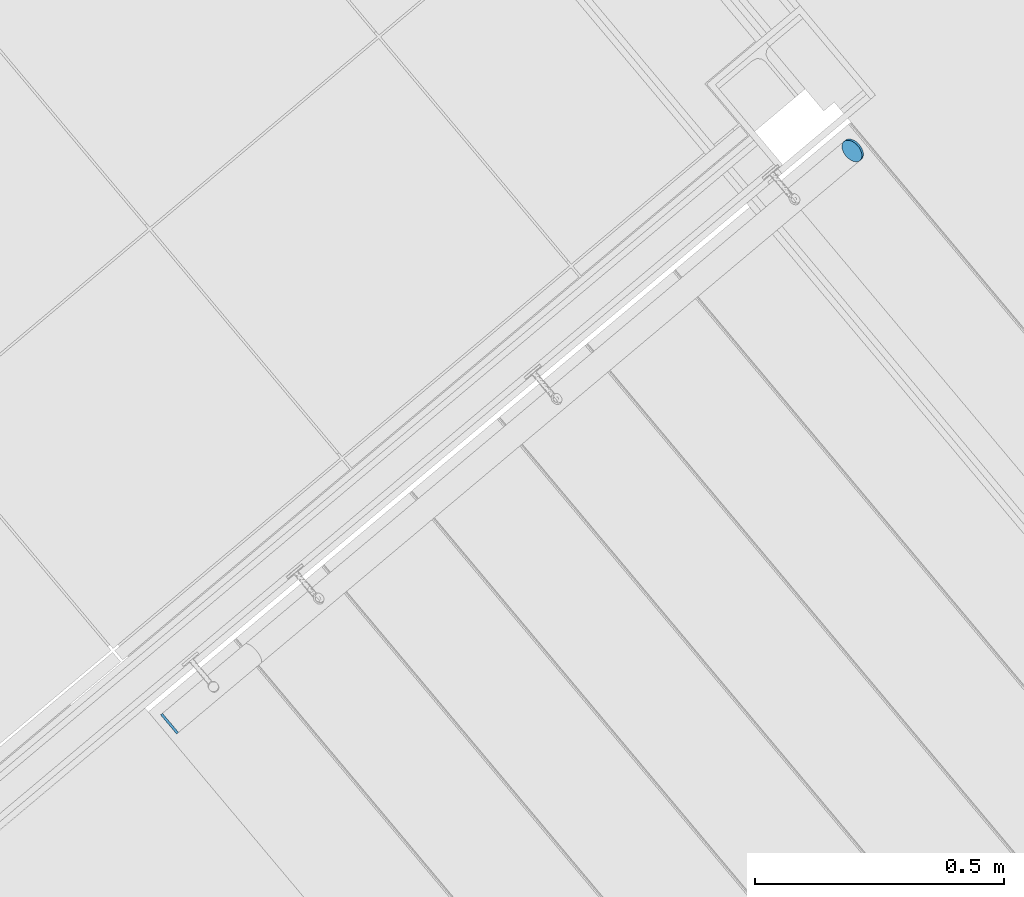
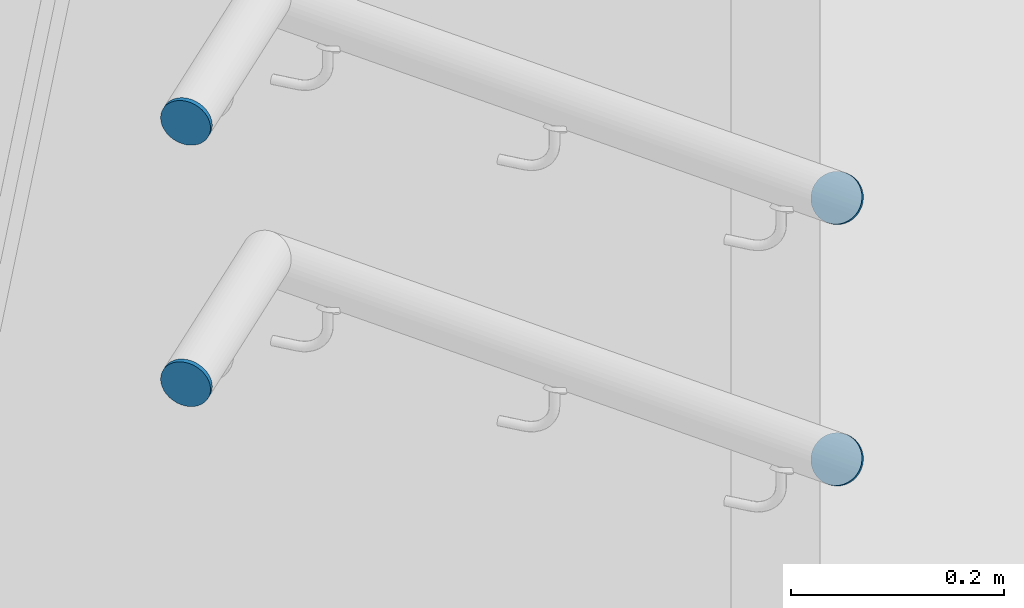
# One storey, part 3 of 338: 4 members, 2 elements without a shape of their own.
"""IFC2X3 building model written with IfcOpenShell, lengths in millimetres."""

from ifc_helpers import new_model, entity, si_unit, converted_unit, derived_unit, money_unit, direction, frame, origin_with_axes, place, context, subcontext, project, spatial, faceted_brep, source, transform, mapped, material, type_object, type_shapes, element, aggregate, save


model = new_model("IFC2X3")

# Units and contexts
model_context = context("Model", 3, precision=0.01, world=origin_with_axes(), true_north=direction((0.0, 1.0)))
plan_context = context("Plan", 3, precision=0.01, world=origin_with_axes(), true_north=direction((0.0, 1.0)))
body_context = subcontext(model_context, "Body", "Model", "MODEL_VIEW")
ifc_project = project(units=[si_unit("LENGTHUNIT", "METRE", prefix="MILLI"), si_unit("AREAUNIT", "SQUARE_METRE"), si_unit("VOLUMEUNIT", "CUBIC_METRE"), converted_unit("PLANEANGLEUNIT", "DEGREE", entity("IfcPlaneAngleMeasure", 0.0174532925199), si_unit("PLANEANGLEUNIT", "RADIAN"), dimensions=[0, 0, 0, 0, 0, 0, 0]), money_unit("EUR"), converted_unit("TIMEUNIT", "Year", entity("IfcTimeMeasure", 31556926.0), si_unit("TIMEUNIT", "SECOND"), dimensions=[0, 0, 1, 0, 0, 0, 0]), si_unit("MASSUNIT", "GRAM", prefix="KILO"), si_unit("THERMODYNAMICTEMPERATUREUNIT", "DEGREE_CELSIUS"), si_unit("LUMINOUSINTENSITYUNIT", "LUMEN"), si_unit("ENERGYUNIT", "JOULE", prefix="MEGA"), derived_unit("THERMALCONDUCTANCEUNIT", [(si_unit("POWERUNIT", "WATT"), 1), (si_unit("LENGTHUNIT", "METRE"), -1), (si_unit("THERMODYNAMICTEMPERATUREUNIT", "KELVIN"), -1)]), derived_unit("SPECIFICHEATCAPACITYUNIT", [(si_unit("ENERGYUNIT", "JOULE"), 1), (si_unit("MASSUNIT", "GRAM", prefix="KILO"), -1), (si_unit("THERMODYNAMICTEMPERATUREUNIT", "KELVIN"), -1)]), derived_unit("MASSDENSITYUNIT", [(si_unit("MASSUNIT", "GRAM", prefix="KILO"), 1), (si_unit("VOLUMEUNIT", "CUBIC_METRE"), -1)])], contexts=[model_context, plan_context])

# Site, building, storey
site_placement = place(None, origin_with_axes())
site = spatial("IfcSite", under=ifc_project, at=site_placement, Name="Fortuinstraat Woensdrecht", CompositionType="ELEMENT")
building_placement = place(site_placement, origin_with_axes())
building = spatial("IfcBuilding", under=site, at=building_placement, Name="IKC Fortuna", CompositionType="ELEMENT")
storey_placement = place(building_placement, origin_with_axes())
storey = spatial("IfcBuildingStorey", under=building, at=storey_placement, Name="00 begane grond", CompositionType="ELEMENT", Elevation=0.0)

# Railing, member
railing_type = type_object("IfcRailingType", Name="Railing Type", PredefinedType="NOTDEFINED")
railing_1_placement = place(storey_placement, frame((18628.4030383, 5997.03974934, 25.0), z_axis=(0.0, 0.0, 1.0), x_axis=(0.173648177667, 0.984807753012, 0.0)))
railing_1 = element("IfcRailing", 1, at=railing_1_placement, inside=storey, type_object=railing_type, Name="_Reling_Reling-x", PredefinedType="NOTDEFINED")
ifc_material = material(Name="Hout AFW")
member_type = type_object("IfcMemberType", Name="IfcMember", PredefinedType="USERDEFINED")
shared_shape_1 = source(origin_with_axes(), body_context, "Body", "Brep", [
    faceted_brep([(-75.0, 15.6832384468, 880.531152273), (-75.3798061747, 12.9598726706, 883.911882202), (-75.3798061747, 9.06610312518, 880.775234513), (-75.0, 11.7894689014, 877.394504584), (-75.3798061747, 18.406604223, 877.150422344), (-76.5076844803, 21.0472219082, 873.872414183), (-78.3493649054, 23.5248576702, 870.796728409), (-80.848888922, 25.7642298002, 868.016818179), (-83.9303097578, 27.6972961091, 865.617149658), (-87.5, 29.2653213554, 863.670635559), (-91.4494964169, 30.4206618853, 862.236419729), (-95.6587955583, 31.1282132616, 861.358080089), (-100.0, 31.3664768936, 861.062304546), (-104.341204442, 31.1282132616, 861.358080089), (-108.550503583, 30.4206618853, 862.236419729), (-112.5, 29.2653213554, 863.670635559), (-116.069690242, 27.6972961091, 865.617149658), (-119.151111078, 25.7642298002, 868.016818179), (-121.650635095, 23.5248576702, 870.796728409), (-123.49231552, 21.0472219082, 873.872414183), (-124.620193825, 18.406604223, 877.150422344), (-125.0, 15.6832384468, 880.531152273), (-124.620193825, 12.9598726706, 883.911882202), (-123.49231552, 10.3192549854, 887.189890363), (-121.650635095, 7.84161922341, 890.265576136), (-119.151111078, 5.60224709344, 893.045486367), (-116.069690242, 3.66918078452, 895.445154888), (-112.5, 2.10115553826, 897.391668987), (-108.550503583, 0.945815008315, 898.825884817), (-104.341204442, 0.23826363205, 899.704224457), (-100.0, 0.0, 900.0), (-95.6587955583, 0.238263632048, 899.704224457), (-91.4494964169, 0.945815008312, 898.825884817), (-87.5, 2.10115553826, 897.391668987), (-83.9303097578, 3.66918078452, 895.445154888), (-80.848888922, 5.60224709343, 893.045486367), (-78.3493649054, 7.8416192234, 890.265576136), (-76.5076844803, 10.3192549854, 887.189890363), (-76.5076844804, 6.42548544, 884.053242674), (-78.3493649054, 3.94784967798, 887.128928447), (-80.848888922, 1.70847754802, 889.908838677), (-83.9303097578, -0.224588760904, 892.308507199), (-87.5, -1.79261400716, 894.255021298), (-91.4494964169, -2.94795453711, 895.689237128), (-95.6587955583, -3.65550591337, 896.567576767), (-100.0, -3.89376954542, 896.863352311), (-104.341204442, -3.65550591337, 896.567576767), (-108.550503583, -2.9479545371, 895.689237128), (-112.5, -1.79261400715, 894.255021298), (-116.069690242, -0.224588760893, 892.308507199), (-119.151111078, 1.70847754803, 889.908838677), (-121.650635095, 3.94784967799, 887.128928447), (-123.49231552, 6.42548544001, 884.053242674), (-124.620193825, 9.0661031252, 880.775234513), (-125.0, 11.7894689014, 877.394504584), (-124.620193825, 14.5128346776, 874.013774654), (-123.49231552, 17.1534523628, 870.735766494), (-121.650635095, 19.6310881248, 867.66008072), (-119.151111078, 21.8704602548, 864.88017049), (-116.069690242, 23.8035265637, 862.480501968), (-112.5, 25.3715518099, 860.533987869), (-108.550503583, 26.5268923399, 859.099772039), (-104.341204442, 27.2344437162, 858.2214324), (-100.0, 27.4727073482, 857.925656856), (-95.6587955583, 27.2344437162, 858.2214324), (-91.4494964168, 26.5268923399, 859.099772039), (-87.5, 25.3715518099, 860.533987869), (-83.9303097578, 23.8035265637, 862.480501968), (-80.848888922, 21.8704602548, 864.88017049), (-78.3493649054, 19.6310881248, 867.66008072), (-76.5076844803, 17.1534523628, 870.735766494), (-75.3798061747, 14.5128346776, 874.013774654)], [[[0, 1, 2, 3]], [[0, 4, 5, 6, 7, 8, 9, 10, 11, 12, 13, 14, 15, 16, 17, 18, 19, 20, 21, 22, 23, 24, 25, 26, 27, 28, 29, 30, 31, 32, 33, 34, 35, 36, 37, 1]], [[1, 37, 38, 2]], [[3, 2, 38, 39, 40, 41, 42, 43, 44, 45, 46, 47, 48, 49, 50, 51, 52, 53, 54, 55, 56, 57, 58, 59, 60, 61, 62, 63, 64, 65, 66, 67, 68, 69, 70, 71]], [[4, 0, 3, 71]], [[5, 4, 71, 70]], [[6, 5, 70, 69]], [[7, 6, 69, 68]], [[8, 7, 68, 67]], [[9, 8, 67, 66]], [[10, 9, 66, 65]], [[11, 10, 65, 64]], [[12, 11, 64, 63]], [[13, 12, 63, 62]], [[14, 13, 62, 61]], [[15, 14, 61, 60]], [[16, 15, 60, 59]], [[17, 16, 59, 58]], [[18, 17, 58, 57]], [[19, 18, 57, 56]], [[20, 19, 56, 55]], [[21, 20, 55, 54]], [[22, 21, 54, 53]], [[23, 22, 53, 52]], [[24, 23, 52, 51]], [[25, 24, 51, 50]], [[26, 25, 50, 49]], [[27, 26, 49, 48]], [[28, 27, 48, 47]], [[29, 28, 47, 46]], [[30, 29, 46, 45]], [[31, 30, 45, 44]], [[32, 31, 44, 43]], [[33, 32, 43, 42]], [[34, 33, 42, 41]], [[35, 34, 41, 40]], [[36, 35, 40, 39]], [[37, 36, 39, 38]]]),
])
member_1_placement = place(railing_1_placement, frame((0.0, 0.0, 0.0), z_axis=(0.0, 0.0, 1.0), x_axis=(0.173648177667, -0.984807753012, 0.0)))
member_1 = element("IfcMember", 2, at=member_1_placement, type_object=member_type, material=ifc_material, Name="_Reling - regel_", context=body_context, shape_type="MappedRepresentation", body=[
    mapped(shared_shape_1, transform((-24.6846981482, -95.050849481, 181.25), x_axis=(-0.642787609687, 0.766044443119, 0.0), y_axis=(-0.766044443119, -0.642787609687, 0.0), z_axis=(0.0, 0.0, 1.0))),
])

railing_2_placement = place(storey_placement, frame((18628.4030383, 5997.03974934, -275.0), z_axis=(0.0, 0.0, 1.0), x_axis=(0.173648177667, 0.984807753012, 0.0)))
railing_2 = element("IfcRailing", 3, at=railing_2_placement, inside=storey, type_object=railing_type, Name="_Reling_Reling-x", PredefinedType="NOTDEFINED")
member_2_placement = place(railing_2_placement, frame((0.0, 0.0, 0.0), z_axis=(0.0, 0.0, 1.0), x_axis=(0.173648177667, -0.984807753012, 0.0)))
member_2 = element("IfcMember", 4, at=member_2_placement, type_object=member_type, material=ifc_material, Name="_Reling - regel_", context=body_context, shape_type="MappedRepresentation", body=[
    mapped(shared_shape_1, transform((-24.6846981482, -95.050849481, 181.25), x_axis=(-0.642787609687, 0.766044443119, 0.0), y_axis=(-0.766044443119, -0.642787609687, 0.0), z_axis=(0.0, 0.0, 1.0))),
])

# Member
shared_shape_2 = source(origin_with_axes(), body_context, "Body", "Brep", [
    faceted_brep([(-125.0, 0.0, 875.0), (-124.620193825, 0.0, 879.341204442), (-124.620193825, 4.99999999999, 879.341204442), (-125.0, 4.99999999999, 875.0), (-124.620193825, 0.0, 870.658795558), (-123.49231552, 0.0, 866.449496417), (-121.650635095, 0.0, 862.5), (-119.151111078, 0.0, 858.930309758), (-116.069690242, 0.0, 855.848888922), (-112.5, 0.0, 853.349364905), (-108.550503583, 0.0, 851.50768448), (-104.341204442, 0.0, 850.379806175), (-100.0, 0.0, 850.0), (-95.6587955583, 0.0, 850.379806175), (-91.4494964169, 0.0, 851.50768448), (-87.5, 0.0, 853.349364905), (-83.9303097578, 0.0, 855.848888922), (-80.848888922, 0.0, 858.930309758), (-78.3493649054, 0.0, 862.5), (-76.5076844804, 0.0, 866.449496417), (-75.3798061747, 0.0, 870.658795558), (-75.0, 0.0, 875.0), (-75.3798061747, 0.0, 879.341204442), (-76.5076844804, 0.0, 883.550503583), (-78.3493649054, 0.0, 887.5), (-80.848888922, 0.0, 891.069690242), (-83.9303097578, 0.0, 894.151111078), (-87.5, 0.0, 896.650635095), (-91.4494964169, 0.0, 898.49231552), (-95.6587955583, 0.0, 899.620193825), (-100.0, 0.0, 900.0), (-104.341204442, 0.0, 899.620193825), (-108.550503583, 0.0, 898.49231552), (-112.5, 0.0, 896.650635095), (-116.069690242, 0.0, 894.151111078), (-119.151111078, 0.0, 891.069690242), (-121.650635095, 0.0, 887.5), (-123.49231552, 0.0, 883.550503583), (-123.49231552, 4.99999999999, 883.550503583), (-121.650635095, 4.99999999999, 887.5), (-119.151111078, 5.0, 891.069690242), (-116.069690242, 5.0, 894.151111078), (-112.5, 5.0, 896.650635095), (-108.550503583, 5.0, 898.49231552), (-104.341204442, 5.0, 899.620193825), (-100.0, 5.0, 900.0), (-95.6587955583, 5.0, 899.620193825), (-91.4494964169, 5.0, 898.49231552), (-87.5, 5.0, 896.650635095), (-83.9303097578, 5.0, 894.151111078), (-80.848888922, 5.0, 891.069690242), (-78.3493649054, 5.0, 887.5), (-76.5076844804, 5.0, 883.550503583), (-75.3798061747, 5.0, 879.341204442), (-75.0, 5.0, 875.0), (-75.3798061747, 5.0, 870.658795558), (-76.5076844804, 5.0, 866.449496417), (-78.3493649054, 5.0, 862.5), (-80.848888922, 5.0, 858.930309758), (-83.9303097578, 5.0, 855.848888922), (-87.5, 5.0, 853.349364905), (-91.4494964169, 5.0, 851.50768448), (-95.6587955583, 5.0, 850.379806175), (-100.0, 5.0, 850.0), (-104.341204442, 5.0, 850.379806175), (-108.550503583, 5.0, 851.50768448), (-112.5, 5.0, 853.349364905), (-116.069690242, 5.0, 855.848888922), (-119.151111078, 5.0, 858.930309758), (-121.650635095, 4.99999999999, 862.5), (-123.49231552, 4.99999999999, 866.449496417), (-124.620193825, 4.99999999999, 870.658795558)], [[[0, 1, 2, 3]], [[0, 4, 5, 6, 7, 8, 9, 10, 11, 12, 13, 14, 15, 16, 17, 18, 19, 20, 21, 22, 23, 24, 25, 26, 27, 28, 29, 30, 31, 32, 33, 34, 35, 36, 37, 1]], [[1, 37, 38, 2]], [[3, 2, 38, 39, 40, 41, 42, 43, 44, 45, 46, 47, 48, 49, 50, 51, 52, 53, 54, 55, 56, 57, 58, 59, 60, 61, 62, 63, 64, 65, 66, 67, 68, 69, 70, 71]], [[4, 0, 3, 71]], [[5, 4, 71, 70]], [[6, 5, 70, 69]], [[7, 6, 69, 68]], [[8, 7, 68, 67]], [[9, 8, 67, 66]], [[10, 9, 66, 65]], [[11, 10, 65, 64]], [[12, 11, 64, 63]], [[13, 12, 63, 62]], [[14, 13, 62, 61]], [[15, 14, 61, 60]], [[16, 15, 60, 59]], [[17, 16, 59, 58]], [[18, 17, 58, 57]], [[19, 18, 57, 56]], [[20, 19, 56, 55]], [[21, 20, 55, 54]], [[22, 21, 54, 53]], [[23, 22, 53, 52]], [[24, 23, 52, 51]], [[25, 24, 51, 50]], [[26, 25, 50, 49]], [[27, 26, 49, 48]], [[28, 27, 48, 47]], [[29, 28, 47, 46]], [[30, 29, 46, 45]], [[31, 30, 45, 44]], [[32, 31, 44, 43]], [[33, 32, 43, 42]], [[34, 33, 42, 41]], [[35, 34, 41, 40]], [[36, 35, 40, 39]], [[37, 36, 39, 38]]]),
])
type_shapes(member_type, [shared_shape_1, shared_shape_2])
member_3_placement = place(railing_1_placement, frame((0.0, 0.0, 0.0), z_axis=(0.0, 0.0, 1.0), x_axis=(0.173648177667, -0.984807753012, 0.0)))
member_3 = element("IfcMember", 5, at=member_3_placement, type_object=member_type, material=ifc_material, Name="_Reling - regel_", context=body_context, shape_type="MappedRepresentation", body=[
    mapped(shared_shape_2, transform((-1403.56469576, -1252.06854692, 1450.0), x_axis=(-0.642787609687, 0.766044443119, 0.0), y_axis=(-0.766044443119, -0.642787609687, 0.0), z_axis=(0.0, 0.0, 1.0))),
])

aggregate(railing_1, [member_1, member_3])

member_4_placement = place(railing_2_placement, frame((0.0, 0.0, 0.0), z_axis=(0.0, 0.0, 1.0), x_axis=(0.173648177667, -0.984807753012, 0.0)))
member_4 = element("IfcMember", 6, at=member_4_placement, type_object=member_type, material=ifc_material, Name="_Reling - regel_", context=body_context, shape_type="MappedRepresentation", body=[
    mapped(shared_shape_2, transform((-1403.56469576, -1252.06854692, 1450.0), x_axis=(-0.642787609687, 0.766044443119, 0.0), y_axis=(-0.766044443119, -0.642787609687, 0.0), z_axis=(0.0, 0.0, 1.0))),
])

aggregate(railing_2, [member_2, member_4])

save(model, "model.ifc")
